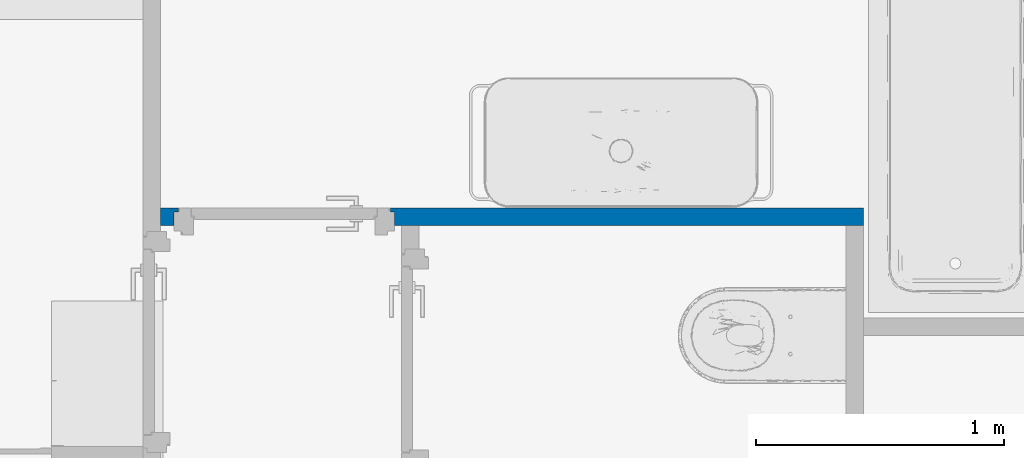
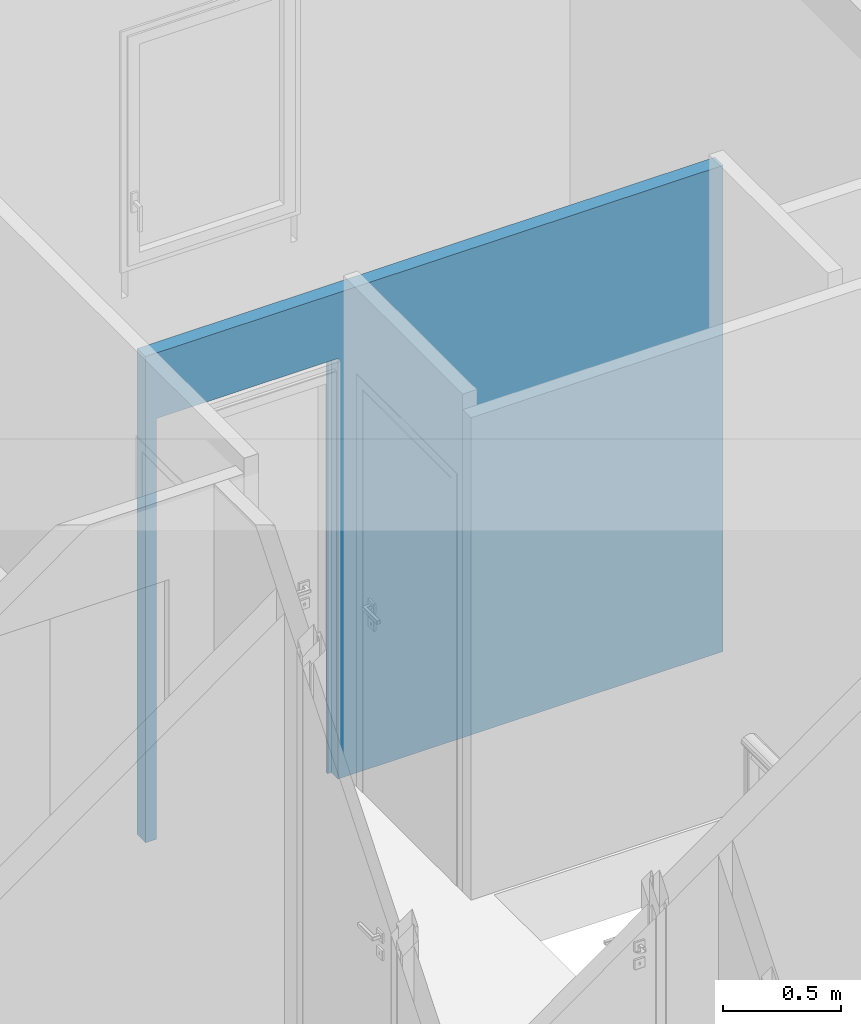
# One storey, part 35 of 61: 1 wall, 1 opening.
"""IFC2X3 building model written with IfcOpenShell, lengths in metres."""

from ifc_helpers import new_model, entity, si_unit, converted_unit, derived_unit, direction, frame, frame_2d, origin, place, context, subcontext, project, spatial, rectangle, extrude, faceted_brep, material, layer, layer_set, layer_usage, type_object, element, save


model = new_model("IFC2X3")

# Units and contexts
model_context = context("Model", 3, precision=1e-05, world=origin(), true_north=direction((6.12303176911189e-17, 1.0)))
body_context = subcontext(model_context, "Body", "Model", "MODEL_VIEW")
ifc_project = project(units=[si_unit("LENGTHUNIT", "METRE"), si_unit("AREAUNIT", "SQUARE_METRE"), si_unit("VOLUMEUNIT", "CUBIC_METRE"), converted_unit("PLANEANGLEUNIT", "DEGREE", entity("IfcRatioMeasure", 0.0174532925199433), si_unit("PLANEANGLEUNIT", "RADIAN"), dimensions=[0, 0, 0, 0, 0, 0, 0]), si_unit("MASSUNIT", "GRAM", prefix="KILO"), derived_unit("MASSDENSITYUNIT", [(si_unit("MASSUNIT", "GRAM", prefix="KILO"), 1), (si_unit("LENGTHUNIT", "METRE"), -3)]), si_unit("TIMEUNIT", "SECOND"), si_unit("FREQUENCYUNIT", "HERTZ"), si_unit("THERMODYNAMICTEMPERATUREUNIT", "DEGREE_CELSIUS"), derived_unit("THERMALTRANSMITTANCEUNIT", [(si_unit("MASSUNIT", "GRAM", prefix="KILO"), 1), (si_unit("THERMODYNAMICTEMPERATUREUNIT", "KELVIN"), -1), (si_unit("TIMEUNIT", "SECOND"), -3)]), derived_unit("VOLUMETRICFLOWRATEUNIT", [(si_unit("LENGTHUNIT", "METRE"), 3), (si_unit("TIMEUNIT", "SECOND"), -1)]), si_unit("ELECTRICCURRENTUNIT", "AMPERE"), si_unit("ELECTRICVOLTAGEUNIT", "VOLT"), si_unit("POWERUNIT", "WATT"), si_unit("FORCEUNIT", "NEWTON", prefix="KILO"), si_unit("ILLUMINANCEUNIT", "LUX"), si_unit("LUMINOUSFLUXUNIT", "LUMEN"), si_unit("LUMINOUSINTENSITYUNIT", "CANDELA"), derived_unit("USERDEFINED", [(si_unit("MASSUNIT", "GRAM", prefix="KILO"), -1), (si_unit("LENGTHUNIT", "METRE"), -2), (si_unit("TIMEUNIT", "SECOND"), 3), (si_unit("LUMINOUSFLUXUNIT", "LUMEN"), 1)]), derived_unit("LINEARVELOCITYUNIT", [(si_unit("LENGTHUNIT", "METRE"), 1), (si_unit("TIMEUNIT", "SECOND"), -1)]), si_unit("PRESSUREUNIT", "PASCAL"), derived_unit("USERDEFINED", [(si_unit("LENGTHUNIT", "METRE"), -2), (si_unit("MASSUNIT", "GRAM", prefix="KILO"), 1), (si_unit("TIMEUNIT", "SECOND"), -2)])], contexts=[model_context])

# Site, building, storey
site_placement = place(None, origin())
site = spatial("IfcSite", under=ifc_project, at=site_placement, Name="Surface", CompositionType="ELEMENT")
building_placement = place(site_placement, origin())
building = spatial("IfcBuilding", under=site, at=building_placement, CompositionType="ELEMENT")
storey_placement = place(building_placement, frame((0.0, 0.0, 2.82)))
storey = spatial("IfcBuildingStorey", under=building, at=storey_placement, Name="ETAGE", CompositionType="ELEMENT", Elevation=2.82)

# Wall, opening
ifc_material = material(Name="Peinture - Blanc")
ifc_layer = layer(ifc_material, 0.07)
ifc_layer_set = layer_set([ifc_layer], Name="Mur de base:Int.  Platre 70 mm en blanc")
ifc_layer_usage = layer_usage(ifc_layer_set, "AXIS2", "POSITIVE", -0.035)
wall_type = type_object("IfcWallType", Name="Mur de base:Int.  Platre 70 mm en blanc", PredefinedType="STANDARD", material=ifc_layer_set)
wall_placement = place(storey_placement, frame((82.8110189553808, 89.6325239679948, 0.0), z_axis=(0.0, 0.0, 1.0), x_axis=(-1.0, 0.0, 0.0)))
wall = element("IfcWallStandardCase", 1, at=wall_placement, inside=storey, type_object=wall_type, material=ifc_layer_usage, Name="Mur de base:Int.  Platre 70 mm en blanc", ObjectType="Mur de base:Int.  Platre 70 mm en blanc", context=body_context, shape_type="SweptSolid", body=[
    extrude(rectangle(XDim=2.83211659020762, YDim=0.0699999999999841, at=frame_2d((1.41605829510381, 1.85268467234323e-15), x_axis=(-1.0, 0.0))), origin(), (0.0, 0.0, 1.0), 2.52),
])
opening_placement = place(wall_placement, frame((2.77855829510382, 0.678399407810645, 0.0), z_axis=(0.0, 0.0, 1.0), x_axis=(-1.0, 0.0, 0.0)))
element("IfcOpeningElement", 2, at=opening_placement, cuts=wall, Name="Mur de base:Int.  Platre 70 mm en blanc", ObjectType="Opening", context=body_context, shape_type="Brep", body=[
    faceted_brep([(0.0799999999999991, 0.893399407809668, 2.09999999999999), (0.810000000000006, 0.893399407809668, 2.09999999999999), (0.810000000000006, 0.893399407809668, 0.0), (0.0799999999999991, 0.893399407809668, 0.0), (0.0799999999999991, 0.0, 2.09999999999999), (0.0799999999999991, 0.0, 0.0), (0.810000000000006, 0.0, 0.0), (0.810000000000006, 0.0, 2.09999999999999), (0.0799999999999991, 0.713399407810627, 0.0), (0.0799999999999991, 0.713399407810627, 2.09999999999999), (0.810000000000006, 0.713399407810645, 0.0), (0.871999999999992, 0.713399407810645, 0.0), (0.871999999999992, 0.698399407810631, 0.0), (0.890000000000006, 0.698399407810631, 0.0), (0.890000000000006, 0.620399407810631, 0.0), (0.860999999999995, 0.620399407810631, 0.0), (0.860999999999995, 0.643399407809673, 0.0), (0.809999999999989, 0.643399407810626, 0.0), (0.0799999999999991, 0.643399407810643, 0.0), (0.0290000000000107, 0.643399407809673, 0.0), (0.0290000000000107, 0.620399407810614, 0.0), (0.0, 0.620399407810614, 0.0), (0.0, 0.698399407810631, 0.0), (0.0180000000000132, 0.698399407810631, 0.0), (0.0180000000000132, 0.713399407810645, 0.0), (0.809999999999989, 0.713399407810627, 2.09999999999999), (0.0799999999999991, 0.643399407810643, 2.09999999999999), (0.0690000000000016, 0.643399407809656, 2.09999999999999), (0.0690000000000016, 0.643399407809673, 2.11099999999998), (0.820999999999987, 0.643399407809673, 2.11099999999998), (0.820999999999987, 0.643399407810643, 2.09999999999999), (0.809999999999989, 0.643399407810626, 2.09999999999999), (0.860999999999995, 0.643399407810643, 2.15099999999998), (0.0290000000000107, 0.643399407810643, 2.15099999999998), (0.0179999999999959, 0.713399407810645, 2.16199999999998), (0.871999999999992, 0.713399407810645, 2.16199999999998), (0.0690000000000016, 0.6428994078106, 2.09999999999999), (0.0690000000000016, 0.6428994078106, 2.11099999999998), (0.820999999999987, 0.642899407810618, 2.11099999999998), (0.820999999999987, 0.642899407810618, 2.09999999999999), (0.0799999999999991, 0.6428994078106, 2.09999999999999), (0.809999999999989, 0.6428994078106, 2.09999999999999), (0.0179999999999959, 0.698399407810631, 2.16199999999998), (0.0, 0.698399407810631, 2.17999999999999), (0.889999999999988, 0.698399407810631, 2.17999999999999), (0.871999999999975, 0.698399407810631, 2.16199999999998), (0.0, 0.620399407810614, 2.17999999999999), (0.0290000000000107, 0.620399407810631, 2.15099999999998), (0.860999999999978, 0.620399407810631, 2.15099999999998), (0.889999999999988, 0.620399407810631, 2.17999999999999)], [[[0, 1, 2, 3]], [[4, 5, 6, 7]], [[0, 3, 8, 9]], [[3, 2, 10, 11, 12, 13, 14, 15, 16, 17, 6, 5, 18, 19, 20, 21, 22, 23, 24, 8]], [[2, 1, 25, 10]], [[1, 0, 9, 25]], [[19, 18, 26, 27, 28, 29, 30, 31, 17, 16, 32, 33]], [[8, 24, 34, 35, 11, 10, 25, 9]], [[36, 37, 28, 27]], [[38, 39, 30, 29]], [[37, 38, 29, 28]], [[39, 38, 37, 36, 40, 41]], [[40, 36, 27, 26]], [[24, 23, 42, 34]], [[23, 22, 43, 44, 13, 12, 45, 42]], [[22, 21, 46, 43]], [[21, 20, 47, 48, 15, 14, 49, 46]], [[20, 19, 33, 47]], [[35, 34, 42, 45]], [[44, 43, 46, 49]], [[33, 32, 48, 47]], [[11, 35, 45, 12]], [[13, 44, 49, 14]], [[32, 16, 15, 48]], [[39, 41, 31, 30]], [[4, 7, 41, 40]], [[7, 6, 17, 31, 41]], [[5, 4, 40, 26, 18]]]),
])

save(model, "model.ifc")
